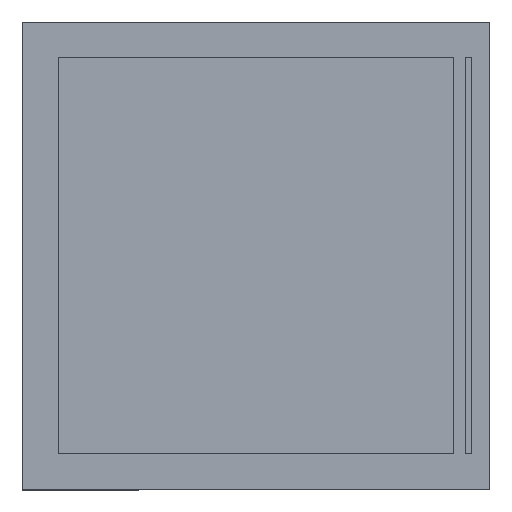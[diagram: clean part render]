
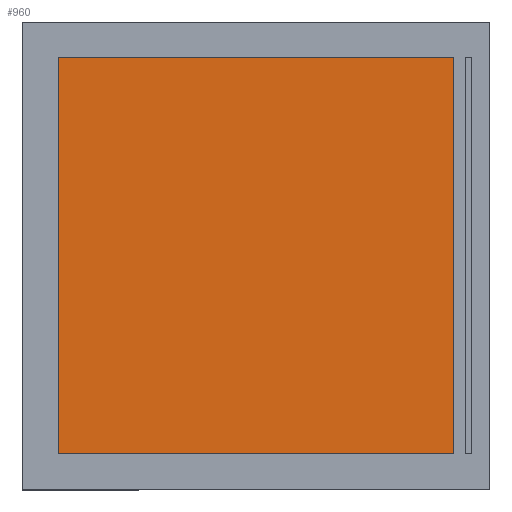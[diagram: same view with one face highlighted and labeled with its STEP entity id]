
A CAD part, top view. The second image highlights one B-rep face of the part: STEP entity #960.
In plain terms, the highlighted planar face has unit normal (0, 0, 1).
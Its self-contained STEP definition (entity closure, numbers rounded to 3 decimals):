
#88 = DIRECTION ( 'NONE',  ( -1., 0., 0. ) ) ;
#107 = CARTESIAN_POINT ( 'NONE',  ( -0.55, -0.55, -0.005 ) ) ;
#117 = EDGE_CURVE ( 'NONE', #920, #487, #1448, .T. ) ;
#127 = VERTEX_POINT ( 'NONE', #718 ) ;
#186 = DIRECTION ( 'NONE',  ( 0., 0., -1. ) ) ;
#270 = CARTESIAN_POINT ( 'NONE',  ( -0.55, 0.55, -0.005 ) ) ;
#303 = FACE_OUTER_BOUND ( 'NONE', #678, .T. ) ;
#414 = CARTESIAN_POINT ( 'NONE',  ( -0.55, -0.55, -0.005 ) ) ;
#427 = CARTESIAN_POINT ( 'NONE',  ( -0.55, -0.55, -0.005 ) ) ;
#487 = VERTEX_POINT ( 'NONE', #427 ) ;
#493 = EDGE_CURVE ( 'NONE', #127, #920, #1901, .T. ) ;
#571 = DIRECTION ( 'NONE',  ( 0., -1., 0. ) ) ;
#678 = EDGE_LOOP ( 'NONE', ( #1458, #1596, #1047, #1654 ) ) ;
#696 = CARTESIAN_POINT ( 'NONE',  ( 0.55, -0.55, -0.005 ) ) ;
#718 = CARTESIAN_POINT ( 'NONE',  ( 0.55, 0.55, -0.005 ) ) ;
#722 = AXIS2_PLACEMENT_3D ( 'NONE', #935, #186, #1789 ) ;
#864 = VECTOR ( 'NONE', #88, 1000. ) ;
#881 = DIRECTION ( 'NONE',  ( 0., 1., 0. ) ) ;
#920 = VERTEX_POINT ( 'NONE', #1445 ) ;
#935 = CARTESIAN_POINT ( 'NONE',  ( 0., 0., -0.005 ) ) ;
#960 = ADVANCED_FACE ( 'NONE', ( #303 ), #1078, .F. ) ;
#996 = VERTEX_POINT ( 'NONE', #1198 ) ;
#1047 = ORIENTED_EDGE ( 'NONE', *, *, #117, .T. ) ;
#1078 = PLANE ( 'NONE',  #722 ) ;
#1168 = VECTOR ( 'NONE', #571, 1000. ) ;
#1198 = CARTESIAN_POINT ( 'NONE',  ( 0.55, -0.55, -0.005 ) ) ;
#1298 = LINE ( 'NONE', #414, #1799 ) ;
#1305 = EDGE_CURVE ( 'NONE', #487, #996, #1298, .T. ) ;
#1333 = VECTOR ( 'NONE', #881, 1000. ) ;
#1445 = CARTESIAN_POINT ( 'NONE',  ( -0.55, 0.55, -0.005 ) ) ;
#1448 = LINE ( 'NONE', #107, #1168 ) ;
#1458 = ORIENTED_EDGE ( 'NONE', *, *, #1664, .T. ) ;
#1463 = LINE ( 'NONE', #696, #1333 ) ;
#1596 = ORIENTED_EDGE ( 'NONE', *, *, #493, .T. ) ;
#1602 = DIRECTION ( 'NONE',  ( 1., 0., 0. ) ) ;
#1654 = ORIENTED_EDGE ( 'NONE', *, *, #1305, .T. ) ;
#1664 = EDGE_CURVE ( 'NONE', #996, #127, #1463, .T. ) ;
#1789 = DIRECTION ( 'NONE',  ( -1., 0., 0. ) ) ;
#1799 = VECTOR ( 'NONE', #1602, 1000. ) ;
#1901 = LINE ( 'NONE', #270, #864 ) ;
